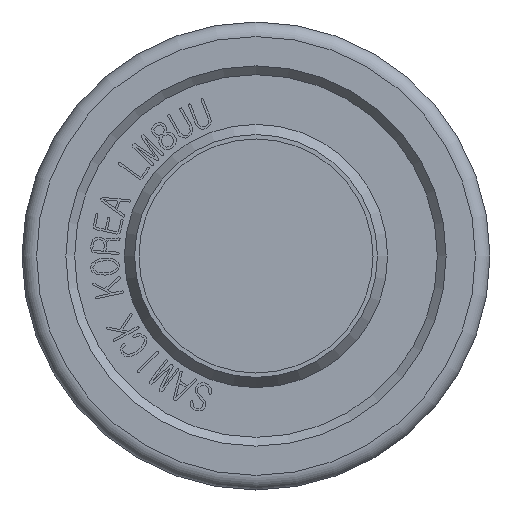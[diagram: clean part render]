
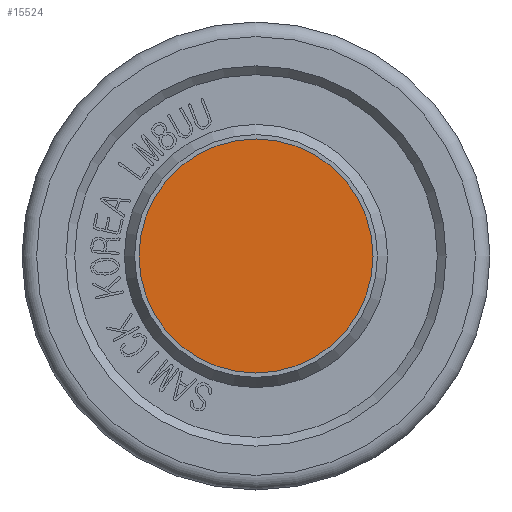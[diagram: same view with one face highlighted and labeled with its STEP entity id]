
A CAD part, front view. The second image highlights one B-rep face of the part: STEP entity #15524.
In plain terms, the highlighted planar face has unit normal (0, -1, 0).
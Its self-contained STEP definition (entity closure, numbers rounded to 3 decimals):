
#429=CIRCLE('',#15789,4.);
#1893=FACE_OUTER_BOUND('',#2752,.T.);
#2752=EDGE_LOOP('',(#14396));
#7600=VERTEX_POINT('',#27948);
#9879=EDGE_CURVE('',#7600,#7600,#429,.T.);
#14396=ORIENTED_EDGE('',*,*,#9879,.F.);
#14724=PLANE('',#15791);
#15524=ADVANCED_FACE('',(#1893),#14724,.T.);
#15789=AXIS2_PLACEMENT_3D('',#27950,#17366,#17367);
#15791=AXIS2_PLACEMENT_3D('',#27952,#17370,#17371);
#17366=DIRECTION('center_axis',(0.,1.,0.));
#17367=DIRECTION('ref_axis',(1.,0.,0.));
#17370=DIRECTION('center_axis',(0.,-1.,0.));
#17371=DIRECTION('ref_axis',(0.,0.,-1.));
#27948=CARTESIAN_POINT('',(-4.,-47.5,0.));
#27950=CARTESIAN_POINT('Origin',(0.,-47.5,0.));
#27952=CARTESIAN_POINT('Origin',(0.,-47.5,0.));
